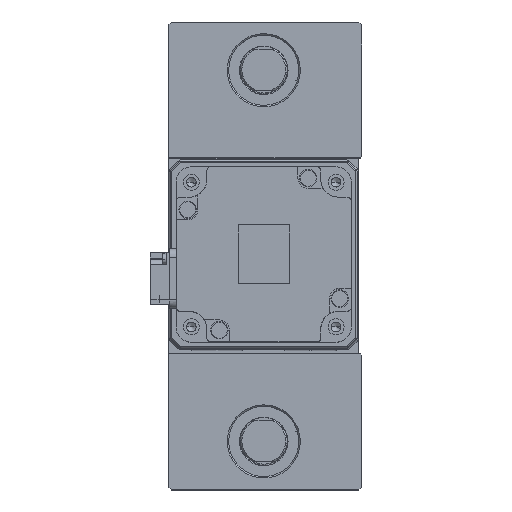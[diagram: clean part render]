
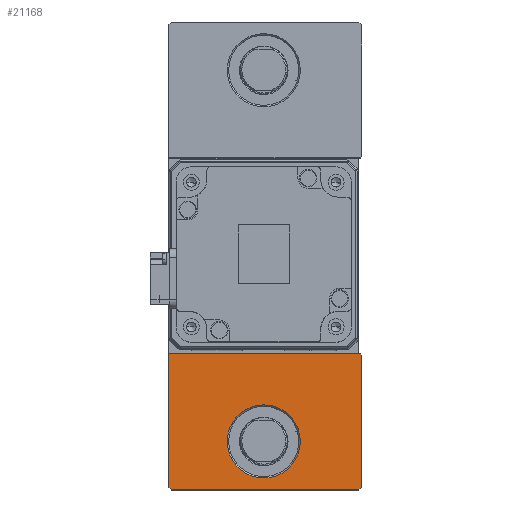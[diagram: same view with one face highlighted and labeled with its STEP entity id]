
A CAD part, top view. The second image highlights one B-rep face of the part: STEP entity #21168.
In plain terms, the highlighted planar face has unit normal (0, 0, 1).
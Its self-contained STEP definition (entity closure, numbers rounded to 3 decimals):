
#8 = LINE ( 'NONE', #486, #6937 ) ;
#103 = CIRCLE ( 'NONE', #29030, 12.5 ) ;
#415 = VERTEX_POINT ( 'NONE', #35467 ) ;
#486 = CARTESIAN_POINT ( 'NONE',  ( -55.75, -55.75, 25. ) ) ;
#816 = DIRECTION ( 'NONE',  ( 0., -1., 0. ) ) ;
#1637 = VECTOR ( 'NONE', #29678, 1000. ) ;
#2035 = ORIENTED_EDGE ( 'NONE', *, *, #29456, .T. ) ;
#2261 = DIRECTION ( 'NONE',  ( -0.707, 0.707, 0. ) ) ;
#2687 = CARTESIAN_POINT ( 'NONE',  ( 32.5, -80., 25. ) ) ;
#3135 = CARTESIAN_POINT ( 'NONE',  ( 33.5, -79., 25. ) ) ;
#3189 = ORIENTED_EDGE ( 'NONE', *, *, #30786, .T. ) ;
#3319 = AXIS2_PLACEMENT_3D ( 'NONE', #7742, #37338, #19562 ) ;
#3330 = CARTESIAN_POINT ( 'NONE',  ( 12.5, -63.5, 25. ) ) ;
#3367 = VERTEX_POINT ( 'NONE', #4986 ) ;
#3537 = CARTESIAN_POINT ( 'NONE',  ( -31.5, -80., 25. ) ) ;
#3685 = FACE_BOUND ( 'NONE', #37278, .T. ) ;
#4402 = VECTOR ( 'NONE', #2261, 1000. ) ;
#4986 = CARTESIAN_POINT ( 'NONE',  ( -32.5, -33.5, 25. ) ) ;
#5771 = ORIENTED_EDGE ( 'NONE', *, *, #12454, .T. ) ;
#5912 = CARTESIAN_POINT ( 'NONE',  ( 33.5, -34., 25. ) ) ;
#6185 = VERTEX_POINT ( 'NONE', #35159 ) ;
#6338 = DIRECTION ( 'NONE',  ( 0., 0., -1. ) ) ;
#6937 = VECTOR ( 'NONE', #18239, 1000. ) ;
#7446 = CIRCLE ( 'NONE', #20873, 12.5 ) ;
#7742 = CARTESIAN_POINT ( 'NONE',  ( 0., 0., 25. ) ) ;
#8187 = VECTOR ( 'NONE', #816, 1000. ) ;
#8882 = VERTEX_POINT ( 'NONE', #3135 ) ;
#8964 = EDGE_CURVE ( 'NONE', #3367, #415, #30828, .T. ) ;
#9483 = LINE ( 'NONE', #20736, #1637 ) ;
#9670 = ORIENTED_EDGE ( 'NONE', *, *, #30140, .T. ) ;
#10620 = ORIENTED_EDGE ( 'NONE', *, *, #8964, .T. ) ;
#10942 = VERTEX_POINT ( 'NONE', #3537 ) ;
#11826 = ORIENTED_EDGE ( 'NONE', *, *, #16129, .T. ) ;
#12023 = ORIENTED_EDGE ( 'NONE', *, *, #34283, .T. ) ;
#12454 = EDGE_CURVE ( 'NONE', #8882, #21367, #14345, .T. ) ;
#13526 = EDGE_CURVE ( 'NONE', #33745, #8882, #35124, .T. ) ;
#13665 = PLANE ( 'NONE',  #3319 ) ;
#14235 = CARTESIAN_POINT ( 'NONE',  ( 0., -63.5, 25. ) ) ;
#14345 = LINE ( 'NONE', #36409, #29108 ) ;
#15762 = EDGE_CURVE ( 'NONE', #33045, #3367, #18243, .T. ) ;
#15828 = DIRECTION ( 'NONE',  ( 0., 1., 0. ) ) ;
#16129 = EDGE_CURVE ( 'NONE', #10942, #33745, #9483, .T. ) ;
#17160 = DIRECTION ( 'NONE',  ( 1., 0., 0. ) ) ;
#18239 = DIRECTION ( 'NONE',  ( 0.707, -0.707, 0. ) ) ;
#18243 = LINE ( 'NONE', #36610, #32138 ) ;
#18304 = VERTEX_POINT ( 'NONE', #3330 ) ;
#18413 = VECTOR ( 'NONE', #36719, 1000. ) ;
#19562 = DIRECTION ( 'NONE',  ( 1., 0., 0. ) ) ;
#20736 = CARTESIAN_POINT ( 'NONE',  ( -32.5, -80., 25. ) ) ;
#20873 = AXIS2_PLACEMENT_3D ( 'NONE', #23962, #6338, #26977 ) ;
#21168 = ADVANCED_FACE ( 'NONE', ( #3685, #26285 ), #13665, .T. ) ;
#21367 = VERTEX_POINT ( 'NONE', #5912 ) ;
#21811 = DIRECTION ( 'NONE',  ( -1., 0., 0. ) ) ;
#22981 = CARTESIAN_POINT ( 'NONE',  ( -0.25, -0.25, 25. ) ) ;
#23962 = CARTESIAN_POINT ( 'NONE',  ( 0., -63.5, 25. ) ) ;
#26285 = FACE_OUTER_BOUND ( 'NONE', #37365, .T. ) ;
#26461 = ORIENTED_EDGE ( 'NONE', *, *, #15762, .T. ) ;
#26977 = DIRECTION ( 'NONE',  ( 1., 0., 0. ) ) ;
#27631 = CARTESIAN_POINT ( 'NONE',  ( 56.25, -56.25, 25. ) ) ;
#28423 = CARTESIAN_POINT ( 'NONE',  ( 33., -33.5, 25. ) ) ;
#29030 = AXIS2_PLACEMENT_3D ( 'NONE', #14235, #34918, #17160 ) ;
#29108 = VECTOR ( 'NONE', #15828, 1000. ) ;
#29456 = EDGE_CURVE ( 'NONE', #18304, #6185, #103, .T. ) ;
#29678 = DIRECTION ( 'NONE',  ( 1., 0., 0. ) ) ;
#30140 = EDGE_CURVE ( 'NONE', #6185, #18304, #7446, .T. ) ;
#30786 = EDGE_CURVE ( 'NONE', #415, #10942, #8, .T. ) ;
#30828 = LINE ( 'NONE', #36221, #8187 ) ;
#32138 = VECTOR ( 'NONE', #21811, 1000. ) ;
#33045 = VERTEX_POINT ( 'NONE', #28423 ) ;
#33745 = VERTEX_POINT ( 'NONE', #2687 ) ;
#34283 = EDGE_CURVE ( 'NONE', #21367, #33045, #36768, .T. ) ;
#34918 = DIRECTION ( 'NONE',  ( 0., 0., -1. ) ) ;
#35124 = LINE ( 'NONE', #27631, #18413 ) ;
#35159 = CARTESIAN_POINT ( 'NONE',  ( -12.5, -63.5, 25. ) ) ;
#35467 = CARTESIAN_POINT ( 'NONE',  ( -32.5, -79., 25. ) ) ;
#36221 = CARTESIAN_POINT ( 'NONE',  ( -32.5, -33.5, 25. ) ) ;
#36409 = CARTESIAN_POINT ( 'NONE',  ( 33.5, -33.5, 25. ) ) ;
#36610 = CARTESIAN_POINT ( 'NONE',  ( -32.5, -33.5, 25. ) ) ;
#36719 = DIRECTION ( 'NONE',  ( 0.707, 0.707, 0. ) ) ;
#36768 = LINE ( 'NONE', #22981, #4402 ) ;
#37278 = EDGE_LOOP ( 'NONE', ( #2035, #9670 ) ) ;
#37338 = DIRECTION ( 'NONE',  ( 0., 0., 1. ) ) ;
#37365 = EDGE_LOOP ( 'NONE', ( #11826, #37439, #5771, #12023, #26461, #10620, #3189 ) ) ;
#37439 = ORIENTED_EDGE ( 'NONE', *, *, #13526, .T. ) ;
